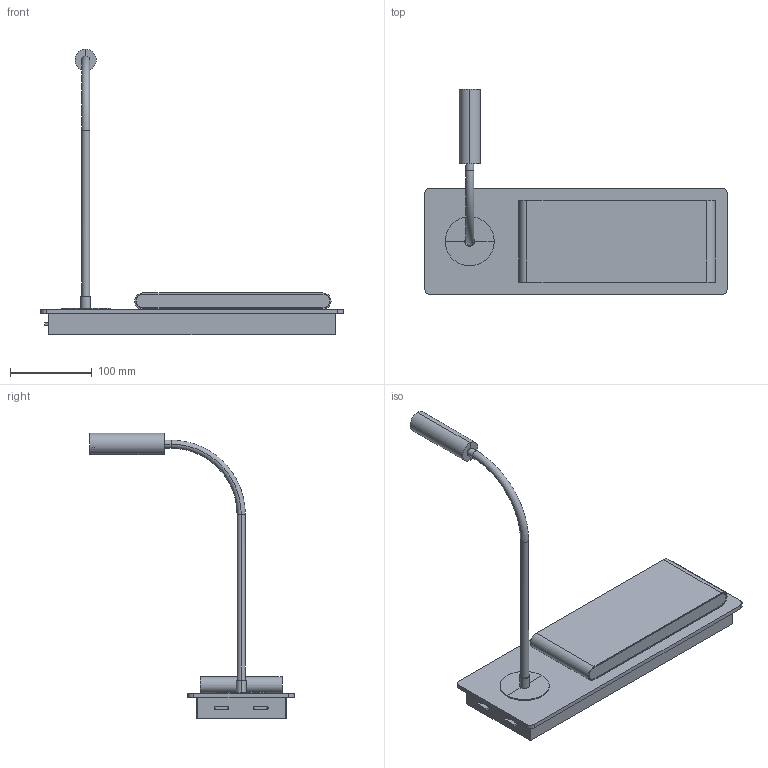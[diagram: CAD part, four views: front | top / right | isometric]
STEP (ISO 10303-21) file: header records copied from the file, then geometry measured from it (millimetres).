
FILE_DESCRIPTION(/* description */ (''),/* implementation_level */ '2;1');
FILE_NAME(/* name */ '20062.step',/* time_stamp */ '2024-06-27T15:39:23+02:00',/* author */ ('RenataManzini'),/* organization */ (''),/* preprocessor_version */ 'ST-DEVELOPER v20',/* originating_system */ 'AutoCAD Mechanical',/* authorisation */ '');
FILE_SCHEMA (('AUTOMOTIVE_DESIGN { 1 0 10303 214 3 1 1 }'));
Length unit declared in the file: millimetre
Products named in the file (2): Product; MOOD_APLIQUE_LECTOR - LESER-495465-_3D_
Assembly tree (1 placements, depth 2):
  Product
    MOOD_APLIQUE_LECTOR - LESER-495465-_3D_
Bounding box: 370 x 250.09 x 348.82 mm (x, y, z)
Volume: 862783 mm3; surface area: 404426.6 mm2
Topology: 11 solids, 11 shells, 132 faces, 305 edges, 197 vertices
Faces by surface type: plane 84, cylinder 44, bspline 2, torus 2
Entity records: 3862 total; most frequent: CARTESIAN_POINT 744, DIRECTION 652, ORIENTED_EDGE 604, EDGE_CURVE 302, AXIS2_PLACEMENT_3D 222, LINE 208, VECTOR 208, VERTEX_POINT 192
